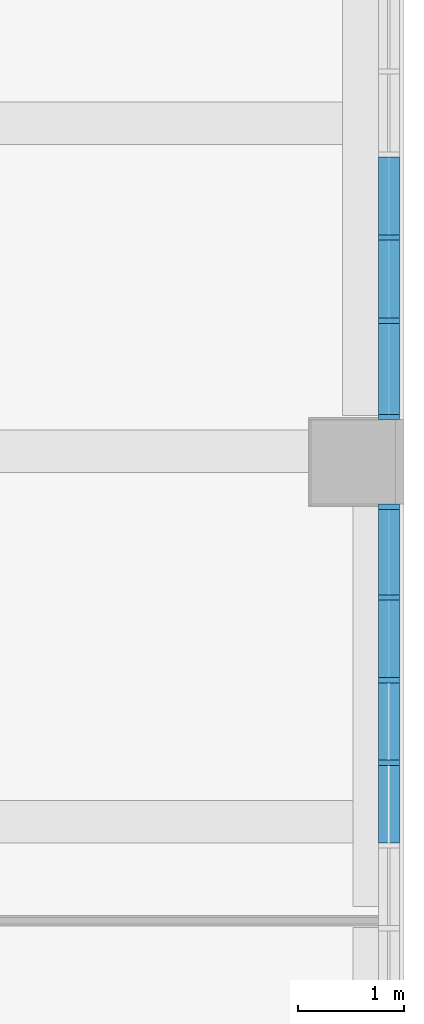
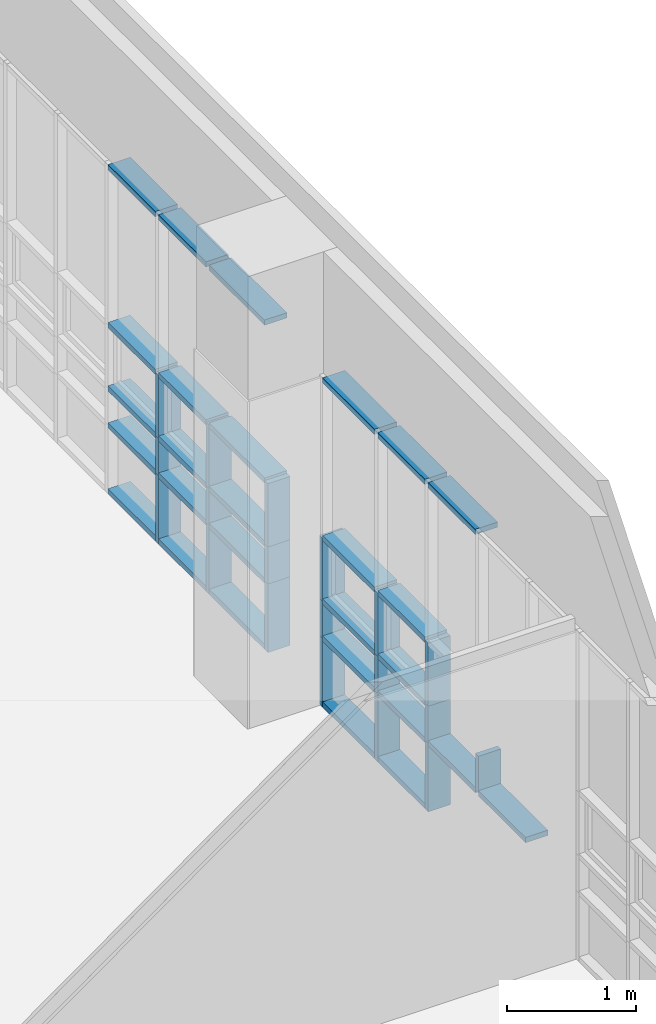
# One storey, part 26 of 74: 47 members, 2 elements without a shape of their own.
"""IFC2X3 building model written with IfcOpenShell, lengths in millimetres."""

from ifc_helpers import new_model, entity, si_unit, converted_unit, derived_unit, direction, frame, origin, origin_2d_with_axis, place, context, subcontext, project, spatial, rectangle, extrude, source, transform, mapped, material, type_object, type_shapes, element, aggregate, save


model = new_model("IFC2X3")

# Units and contexts
model_context = context("Model", 3, precision=0.01, world=origin(), true_north=direction((6.123031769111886e-17, 1.0)))
body_context = subcontext(model_context, "Body", "Model", "MODEL_VIEW")
ifc_project = project(units=[si_unit("LENGTHUNIT", "METRE", prefix="MILLI"), si_unit("AREAUNIT", "SQUARE_METRE"), si_unit("VOLUMEUNIT", "CUBIC_METRE"), converted_unit("PLANEANGLEUNIT", "DEGREE", entity("IfcRatioMeasure", 0.017453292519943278), si_unit("PLANEANGLEUNIT", "RADIAN"), dimensions=[0, 0, 0, 0, 0, 0, 0]), si_unit("MASSUNIT", "GRAM", prefix="KILO"), derived_unit("MASSDENSITYUNIT", [(si_unit("MASSUNIT", "GRAM", prefix="KILO"), 1), (si_unit("LENGTHUNIT", "METRE"), -3)]), derived_unit("MOMENTOFINERTIAUNIT", [(si_unit("LENGTHUNIT", "METRE"), 4)]), si_unit("TIMEUNIT", "SECOND"), si_unit("FREQUENCYUNIT", "HERTZ"), si_unit("THERMODYNAMICTEMPERATUREUNIT", "DEGREE_CELSIUS"), derived_unit("THERMALTRANSMITTANCEUNIT", [(si_unit("MASSUNIT", "GRAM", prefix="KILO"), 1), (si_unit("THERMODYNAMICTEMPERATUREUNIT", "KELVIN"), -1), (si_unit("TIMEUNIT", "SECOND"), -3)]), derived_unit("VOLUMETRICFLOWRATEUNIT", [(si_unit("LENGTHUNIT", "METRE"), 3), (si_unit("TIMEUNIT", "SECOND"), -1)]), derived_unit("MASSFLOWRATEUNIT", [(si_unit("MASSUNIT", "GRAM", prefix="KILO"), 1), (si_unit("TIMEUNIT", "SECOND"), -1)]), derived_unit("ROTATIONALFREQUENCYUNIT", [(si_unit("TIMEUNIT", "SECOND"), -1)]), si_unit("ELECTRICCURRENTUNIT", "AMPERE"), si_unit("ELECTRICVOLTAGEUNIT", "VOLT"), si_unit("POWERUNIT", "WATT"), si_unit("FORCEUNIT", "NEWTON", prefix="KILO"), si_unit("ILLUMINANCEUNIT", "LUX"), si_unit("LUMINOUSFLUXUNIT", "LUMEN"), si_unit("LUMINOUSINTENSITYUNIT", "CANDELA"), derived_unit("USERDEFINED", [(si_unit("MASSUNIT", "GRAM", prefix="KILO"), -1), (si_unit("LENGTHUNIT", "METRE"), -2), (si_unit("TIMEUNIT", "SECOND"), 3), (si_unit("LUMINOUSFLUXUNIT", "LUMEN"), 1)]), derived_unit("SOUNDPOWERUNIT", [(si_unit("MASSUNIT", "GRAM", prefix="KILO"), 1), (si_unit("LENGTHUNIT", "METRE"), 2), (si_unit("TIMEUNIT", "SECOND"), -3)]), derived_unit("SOUNDPRESSUREUNIT", [(si_unit("MASSUNIT", "GRAM", prefix="KILO"), 1), (si_unit("LENGTHUNIT", "METRE"), -1), (si_unit("TIMEUNIT", "SECOND"), -2)]), derived_unit("LINEARVELOCITYUNIT", [(si_unit("LENGTHUNIT", "METRE"), 1), (si_unit("TIMEUNIT", "SECOND"), -1)]), si_unit("PRESSUREUNIT", "PASCAL"), derived_unit("USERDEFINED", [(si_unit("LENGTHUNIT", "METRE"), -2), (si_unit("MASSUNIT", "GRAM", prefix="KILO"), 1), (si_unit("TIMEUNIT", "SECOND"), -2)]), derived_unit("LINEARFORCEUNIT", [(si_unit("MASSUNIT", "GRAM", prefix="KILO"), 1), (si_unit("LENGTHUNIT", "METRE"), 1), (si_unit("TIMEUNIT", "SECOND"), -2), (si_unit("LENGTHUNIT", "METRE"), -1)]), derived_unit("PLANARFORCEUNIT", [(si_unit("MASSUNIT", "GRAM", prefix="KILO"), 1), (si_unit("LENGTHUNIT", "METRE"), 1), (si_unit("TIMEUNIT", "SECOND"), -2), (si_unit("LENGTHUNIT", "METRE"), -2)])], contexts=[model_context])

# Site, building, storey
site_placement = place(None, frame((-14167.972527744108, -657.2125860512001, 0.0)))
site = spatial("IfcSite", under=ifc_project, at=site_placement, Name="Default", CompositionType="ELEMENT")
building_placement = place(site_placement, origin())
building = spatial("IfcBuilding", under=site, at=building_placement, Name="Sample Building", CompositionType="ELEMENT")
storey_placement = place(building_placement, frame((0.0, 0.0, 4800.0)))
storey = spatial("IfcBuildingStorey", under=building, at=storey_placement, Name="지상 2층", CompositionType="ELEMENT", Elevation=4800.000000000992)

# Curtain wall, members
curtain_wall_type = type_object("IfcCurtainWallType", Name="커튼월:CW112-스테인리스 스틸 커튼월", PredefinedType="NOTDEFINED")
curtain_wall_1_placement = place(storey_placement, frame((0.0, 0.0, -4800.0)))
curtain_wall_1 = element("IfcCurtainWall", 1, at=curtain_wall_1_placement, inside=storey, type_object=curtain_wall_type, Name="커튼월:CW112-스테인리스 스틸 커튼월", ObjectType="커튼월:CW112-스테인리스 스틸 커튼월")
ifc_material = material(Name="<Unnamed>")
member_type_1 = type_object("IfcMemberType", Name="직사각형 멀리언:CW200-직사각형 멀리언 50x200mm", PredefinedType="MULLION", material=ifc_material)
shared_shape_1 = source(origin(), body_context, "Body", "SweptSolid", [
    extrude(rectangle(XDim=200.0, YDim=50.0, at=origin_2d_with_axis()), frame((-25.0, 0.0, -650.0), z_axis=(0.0, 0.0, 1.0), x_axis=(0.0, -1.0, 0.0)), (0.0, 0.0, 1.0), 650.0000000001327),
])
type_shapes(member_type_1, [shared_shape_1])
member_1_placement = place(curtain_wall_1_placement, frame((51405.463828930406, 19557.212307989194, 4880.0), z_axis=(0.0, 0.0, -1.0), x_axis=(0.0, 1.0, 0.0)))
member_1 = element("IfcMember", 2, at=member_1_placement, type_object=member_type_1, material=ifc_material, Name="직사각형 멀리언:CW200-직사각형 멀리언 50x200mm", ObjectType="직사각형 멀리언:CW200-직사각형 멀리언 50x200mm", context=body_context, shape_type="MappedRepresentation", body=[
    mapped(shared_shape_1, transform((0.0, 0.0, 0.0), scale=1.0)),
])
member_type_2 = type_object("IfcMemberType", Name="직사각형 멀리언:CW200-직사각형 멀리언 50x200mm", PredefinedType="MULLION", material=ifc_material)
shared_shape_2 = source(origin(), body_context, "Body", "SweptSolid", [
    extrude(rectangle(XDim=200.0, YDim=50.0, at=origin_2d_with_axis()), frame((0.0, 0.0, -650.0), z_axis=(0.0, 0.0, 1.0), x_axis=(0.0, -1.0, 0.0)), (0.0, 0.0, 1.0), 650.0000000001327),
])
type_shapes(member_type_2, [shared_shape_2])
member_2_placement = place(curtain_wall_1_placement, frame((51405.463828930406, 17894.712275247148, 4880.0), z_axis=(0.0, 0.0, -1.0), x_axis=(0.0, 1.0, 0.0)))
member_2 = element("IfcMember", 3, at=member_2_placement, type_object=member_type_2, material=ifc_material, Name="직사각형 멀리언:CW200-직사각형 멀리언 50x200mm", ObjectType="직사각형 멀리언:CW200-직사각형 멀리언 50x200mm", context=body_context, shape_type="MappedRepresentation", body=[
    mapped(shared_shape_2, transform((0.0, 0.0, 0.0), scale=1.0)),
])
member_3_placement = place(curtain_wall_1_placement, frame((51405.463828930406, 18675.962275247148, 4880.0), z_axis=(0.0, 0.0, -1.0), x_axis=(0.0, 1.0, 0.0)))
member_3 = element("IfcMember", 4, at=member_3_placement, type_object=member_type_2, material=ifc_material, Name="직사각형 멀리언:CW200-직사각형 멀리언 50x200mm", ObjectType="직사각형 멀리언:CW200-직사각형 멀리언 50x200mm", context=body_context, shape_type="MappedRepresentation", body=[
    mapped(shared_shape_2, transform((0.0, 0.0, 0.0), scale=1.0)),
])

curtain_wall_2_placement = place(storey_placement, frame((0.0, 0.0, -4800.0)))
curtain_wall_2 = element("IfcCurtainWall", 5, at=curtain_wall_2_placement, inside=storey, type_object=curtain_wall_type, Name="커튼월:CW112-스테인리스 스틸 커튼월", ObjectType="커튼월:CW112-스테인리스 스틸 커튼월")
member_4_placement = place(curtain_wall_2_placement, frame((51405.463828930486, 21292.212275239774, 4880.0), z_axis=(0.0, 0.0, -1.0), x_axis=(0.0, 1.0, 0.0)))
member_4 = element("IfcMember", 6, at=member_4_placement, type_object=member_type_2, material=ifc_material, Name="직사각형 멀리언:CW200-직사각형 멀리언 50x200mm", ObjectType="직사각형 멀리언:CW200-직사각형 멀리언 50x200mm", context=body_context, shape_type="MappedRepresentation", body=[
    mapped(shared_shape_2, transform((0.0, 0.0, 0.0), scale=1.0)),
])
member_5_placement = place(curtain_wall_2_placement, frame((51405.463828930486, 22077.21227523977, 4880.0), z_axis=(0.0, 0.0, -1.0), x_axis=(0.0, 1.0, 0.0)))
member_5 = element("IfcMember", 7, at=member_5_placement, type_object=member_type_2, material=ifc_material, Name="직사각형 멀리언:CW200-직사각형 멀리언 50x200mm", ObjectType="직사각형 멀리언:CW200-직사각형 멀리언 50x200mm", context=body_context, shape_type="MappedRepresentation", body=[
    mapped(shared_shape_2, transform((0.0, 0.0, 0.0), scale=1.0)),
])
member_type_3 = type_object("IfcMemberType", Name="직사각형 멀리언:CW200-직사각형 멀리언 50x200mm", PredefinedType="MULLION", material=ifc_material)
shared_shape_3 = source(origin(), body_context, "Body", "SweptSolid", [
    extrude(rectangle(XDim=200.0, YDim=50.0, at=origin_2d_with_axis()), frame((-25.0, 0.0, -600.0), z_axis=(0.0, 0.0, 1.0), x_axis=(0.0, -1.0, 0.0)), (0.0, 0.0, 1.0), 600.0),
])
type_shapes(member_type_3, [shared_shape_3])
member_6_placement = place(curtain_wall_2_placement, frame((51405.463828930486, 20357.2123079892, 6480.0), z_axis=(0.0, 0.0, 1.0), x_axis=(0.0, -1.0, 0.0)))
member_6 = element("IfcMember", 8, at=member_6_placement, type_object=member_type_3, material=ifc_material, Name="직사각형 멀리언:CW200-직사각형 멀리언 50x200mm", ObjectType="직사각형 멀리언:CW200-직사각형 멀리언 50x200mm", context=body_context, shape_type="MappedRepresentation", body=[
    mapped(shared_shape_3, transform((0.0, 0.0, 0.0), scale=1.0)),
])

# Member
member_type_4 = type_object("IfcMemberType", Name="직사각형 멀리언:CW200-직사각형 멀리언 50x200mm", PredefinedType="MULLION", material=ifc_material)
shared_shape_4 = source(origin(), body_context, "Body", "SweptSolid", [
    extrude(rectangle(XDim=200.0, YDim=50.0, at=origin_2d_with_axis()), frame((-25.0, 0.0, -600.0), z_axis=(0.0, 0.0, 1.0), x_axis=(0.0, -1.0, 0.0)), (0.0, 0.0, 1.0), 600.0),
])
type_shapes(member_type_4, [shared_shape_4])
member_7_placement = place(curtain_wall_1_placement, frame((51405.463828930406, 19557.212307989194, 5880.0), z_axis=(0.0, 0.0, -1.0), x_axis=(0.0, 1.0, 0.0)))
member_7 = element("IfcMember", 9, at=member_7_placement, type_object=member_type_4, material=ifc_material, Name="직사각형 멀리언:CW200-직사각형 멀리언 50x200mm", ObjectType="직사각형 멀리언:CW200-직사각형 멀리언 50x200mm", context=body_context, shape_type="MappedRepresentation", body=[
    mapped(shared_shape_4, transform((0.0, 0.0, 0.0), scale=1.0)),
])

member_type_5 = type_object("IfcMemberType", Name="직사각형 멀리언:CW200-직사각형 멀리언 50x200mm", PredefinedType="MULLION", material=ifc_material)
shared_shape_5 = source(origin(), body_context, "Body", "SweptSolid", [
    extrude(rectangle(XDim=200.0, YDim=50.0, at=origin_2d_with_axis()), frame((-25.0, 0.0, -350.0), z_axis=(0.0, 0.0, 1.0), x_axis=(0.0, -1.0, 0.0)), (0.0, 0.0, 1.0), 349.9999999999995),
])
type_shapes(member_type_5, [shared_shape_5])
member_8_placement = place(curtain_wall_2_placement, frame((51405.463828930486, 20357.2123079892, 5880.0), z_axis=(0.0, 0.0, 1.0), x_axis=(0.0, -1.0, 0.0)))
member_8 = element("IfcMember", 10, at=member_8_placement, type_object=member_type_5, material=ifc_material, Name="직사각형 멀리언:CW200-직사각형 멀리언 50x200mm", ObjectType="직사각형 멀리언:CW200-직사각형 멀리언 50x200mm", context=body_context, shape_type="MappedRepresentation", body=[
    mapped(shared_shape_5, transform((0.0, 0.0, 0.0), scale=1.0)),
])

member_type_6 = type_object("IfcMemberType", Name="직사각형 멀리언:CW200-직사각형 멀리언 50x200mm", PredefinedType="MULLION", material=ifc_material)
shared_shape_6 = source(origin(), body_context, "Body", "SweptSolid", [
    extrude(rectangle(XDim=200.0, YDim=50.0, at=origin_2d_with_axis()), frame((0.0, 0.0, -600.0), z_axis=(0.0, 0.0, 1.0), x_axis=(0.0, -1.0, 0.0)), (0.0, 0.0, 1.0), 600.0),
])
type_shapes(member_type_6, [shared_shape_6])
member_9_placement = place(curtain_wall_1_placement, frame((51405.463828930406, 17894.712275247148, 5880.0), z_axis=(0.0, 0.0, -1.0), x_axis=(0.0, 1.0, 0.0)))
member_9 = element("IfcMember", 11, at=member_9_placement, type_object=member_type_6, material=ifc_material, Name="직사각형 멀리언:CW200-직사각형 멀리언 50x200mm", ObjectType="직사각형 멀리언:CW200-직사각형 멀리언 50x200mm", context=body_context, shape_type="MappedRepresentation", body=[
    mapped(shared_shape_6, transform((0.0, 0.0, 0.0), scale=1.0)),
])

member_10_placement = place(curtain_wall_1_placement, frame((51405.463828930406, 18675.962275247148, 5880.0), z_axis=(0.0, 0.0, -1.0), x_axis=(0.0, 1.0, 0.0)))
member_10 = element("IfcMember", 12, at=member_10_placement, type_object=member_type_6, material=ifc_material, Name="직사각형 멀리언:CW200-직사각형 멀리언 50x200mm", ObjectType="직사각형 멀리언:CW200-직사각형 멀리언 50x200mm", context=body_context, shape_type="MappedRepresentation", body=[
    mapped(shared_shape_6, transform((0.0, 0.0, 0.0), scale=1.0)),
])

member_11_placement = place(curtain_wall_2_placement, frame((51405.463828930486, 21292.212275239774, 5880.0), z_axis=(0.0, 0.0, -1.0), x_axis=(0.0, 1.0, 0.0)))
member_11 = element("IfcMember", 13, at=member_11_placement, type_object=member_type_6, material=ifc_material, Name="직사각형 멀리언:CW200-직사각형 멀리언 50x200mm", ObjectType="직사각형 멀리언:CW200-직사각형 멀리언 50x200mm", context=body_context, shape_type="MappedRepresentation", body=[
    mapped(shared_shape_6, transform((0.0, 0.0, 0.0), scale=1.0)),
])

member_12_placement = place(curtain_wall_2_placement, frame((51405.463828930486, 22077.21227523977, 5880.0), z_axis=(0.0, 0.0, -1.0), x_axis=(0.0, 1.0, 0.0)))
member_12 = element("IfcMember", 14, at=member_12_placement, type_object=member_type_6, material=ifc_material, Name="직사각형 멀리언:CW200-직사각형 멀리언 50x200mm", ObjectType="직사각형 멀리언:CW200-직사각형 멀리언 50x200mm", context=body_context, shape_type="MappedRepresentation", body=[
    mapped(shared_shape_6, transform((0.0, 0.0, 0.0), scale=1.0)),
])

member_type_7 = type_object("IfcMemberType", Name="직사각형 멀리언:CW200-직사각형 멀리언 50x200mm", PredefinedType="MULLION", material=ifc_material)
shared_shape_7 = source(origin(), body_context, "Body", "SweptSolid", [
    extrude(rectangle(XDim=200.0, YDim=50.0, at=origin_2d_with_axis()), frame((-25.0, 0.0, -350.0), z_axis=(0.0, 0.0, 1.0), x_axis=(0.0, -1.0, 0.0)), (0.0, 0.0, 1.0), 349.9999999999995),
])
type_shapes(member_type_7, [shared_shape_7])
member_13_placement = place(curtain_wall_1_placement, frame((51405.463828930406, 19557.212307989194, 5530.0), z_axis=(0.0, 0.0, -1.0), x_axis=(0.0, 1.0, 0.0)))
member_13 = element("IfcMember", 15, at=member_13_placement, type_object=member_type_7, material=ifc_material, Name="직사각형 멀리언:CW200-직사각형 멀리언 50x200mm", ObjectType="직사각형 멀리언:CW200-직사각형 멀리언 50x200mm", context=body_context, shape_type="MappedRepresentation", body=[
    mapped(shared_shape_7, transform((0.0, 0.0, 0.0), scale=1.0)),
])

member_type_8 = type_object("IfcMemberType", Name="직사각형 멀리언:CW200-직사각형 멀리언 50x200mm", PredefinedType="MULLION", material=ifc_material)
shared_shape_8 = source(origin(), body_context, "Body", "SweptSolid", [
    extrude(rectangle(XDim=200.0, YDim=50.0, at=origin_2d_with_axis()), frame((-25.0, 0.0, -650.0), z_axis=(0.0, 0.0, 1.0), x_axis=(0.0, -1.0, 0.0)), (0.0, 0.0, 1.0), 650.0000000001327),
])
type_shapes(member_type_8, [shared_shape_8])
member_14_placement = place(curtain_wall_2_placement, frame((51405.463828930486, 20357.2123079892, 5530.0), z_axis=(0.0, 0.0, 1.0), x_axis=(0.0, -1.0, 0.0)))
member_14 = element("IfcMember", 16, at=member_14_placement, type_object=member_type_8, material=ifc_material, Name="직사각형 멀리언:CW200-직사각형 멀리언 50x200mm", ObjectType="직사각형 멀리언:CW200-직사각형 멀리언 50x200mm", context=body_context, shape_type="MappedRepresentation", body=[
    mapped(shared_shape_8, transform((0.0, 0.0, 0.0), scale=1.0)),
])

member_type_9 = type_object("IfcMemberType", Name="직사각형 멀리언:CW200-직사각형 멀리언 50x200mm", PredefinedType="MULLION", material=ifc_material)
shared_shape_9 = source(origin(), body_context, "Body", "SweptSolid", [
    extrude(rectangle(XDim=200.0, YDim=50.0, at=origin_2d_with_axis()), frame((0.0, 0.0, -350.0), z_axis=(0.0, 0.0, 1.0), x_axis=(0.0, -1.0, 0.0)), (0.0, 0.0, 1.0), 349.9999999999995),
])
type_shapes(member_type_9, [shared_shape_9])
member_15_placement = place(curtain_wall_1_placement, frame((51405.4638289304, 17113.462275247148, 5530.0), z_axis=(0.0, 0.0, -1.0), x_axis=(0.0, 1.0, 0.0)))
member_15 = element("IfcMember", 17, at=member_15_placement, type_object=member_type_9, material=ifc_material, Name="직사각형 멀리언:CW200-직사각형 멀리언 50x200mm", ObjectType="직사각형 멀리언:CW200-직사각형 멀리언 50x200mm", context=body_context, shape_type="MappedRepresentation", body=[
    mapped(shared_shape_9, transform((0.0, 0.0, 0.0), scale=1.0)),
])

member_16_placement = place(curtain_wall_1_placement, frame((51405.463828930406, 17894.712275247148, 5530.0), z_axis=(0.0, 0.0, -1.0), x_axis=(0.0, 1.0, 0.0)))
member_16 = element("IfcMember", 18, at=member_16_placement, type_object=member_type_9, material=ifc_material, Name="직사각형 멀리언:CW200-직사각형 멀리언 50x200mm", ObjectType="직사각형 멀리언:CW200-직사각형 멀리언 50x200mm", context=body_context, shape_type="MappedRepresentation", body=[
    mapped(shared_shape_9, transform((0.0, 0.0, 0.0), scale=1.0)),
])

member_17_placement = place(curtain_wall_1_placement, frame((51405.463828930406, 18675.962275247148, 5530.0), z_axis=(0.0, 0.0, -1.0), x_axis=(0.0, 1.0, 0.0)))
member_17 = element("IfcMember", 19, at=member_17_placement, type_object=member_type_9, material=ifc_material, Name="직사각형 멀리언:CW200-직사각형 멀리언 50x200mm", ObjectType="직사각형 멀리언:CW200-직사각형 멀리언 50x200mm", context=body_context, shape_type="MappedRepresentation", body=[
    mapped(shared_shape_9, transform((0.0, 0.0, 0.0), scale=1.0)),
])

member_18_placement = place(curtain_wall_2_placement, frame((51405.463828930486, 21292.212275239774, 5530.0), z_axis=(0.0, 0.0, -1.0), x_axis=(0.0, 1.0, 0.0)))
member_18 = element("IfcMember", 20, at=member_18_placement, type_object=member_type_9, material=ifc_material, Name="직사각형 멀리언:CW200-직사각형 멀리언 50x200mm", ObjectType="직사각형 멀리언:CW200-직사각형 멀리언 50x200mm", context=body_context, shape_type="MappedRepresentation", body=[
    mapped(shared_shape_9, transform((0.0, 0.0, 0.0), scale=1.0)),
])

member_19_placement = place(curtain_wall_2_placement, frame((51405.463828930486, 22077.21227523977, 5530.0), z_axis=(0.0, 0.0, -1.0), x_axis=(0.0, 1.0, 0.0)))
member_19 = element("IfcMember", 21, at=member_19_placement, type_object=member_type_9, material=ifc_material, Name="직사각형 멀리언:CW200-직사각형 멀리언 50x200mm", ObjectType="직사각형 멀리언:CW200-직사각형 멀리언 50x200mm", context=body_context, shape_type="MappedRepresentation", body=[
    mapped(shared_shape_9, transform((0.0, 0.0, 0.0), scale=1.0)),
])

member_type_10 = type_object("IfcMemberType", Name="직사각형 멀리언:CW200-직사각형 멀리언 50x200mm", PredefinedType="MULLION", material=ifc_material)
shared_shape_10 = source(origin(), body_context, "Body", "SweptSolid", [
    extrude(rectangle(XDim=200.0, YDim=50.0, at=origin_2d_with_axis()), frame((-25.0, 0.0, -806.2500327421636), z_axis=(0.0, 0.0, 1.0), x_axis=(0.0, -1.0, 0.0)), (0.0, 0.0, 1.0), 806.2500327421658),
])
type_shapes(member_type_10, [shared_shape_10])
member_20_placement = place(curtain_wall_1_placement, frame((51405.463828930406, 18700.962275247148, 4880.0), z_axis=(0.0, -1.0, 0.0), x_axis=(0.0, 0.0, -1.0)))
member_20 = element("IfcMember", 22, at=member_20_placement, type_object=member_type_10, material=ifc_material, Name="직사각형 멀리언:CW200-직사각형 멀리언 50x200mm", ObjectType="직사각형 멀리언:CW200-직사각형 멀리언 50x200mm", context=body_context, shape_type="MappedRepresentation", body=[
    mapped(shared_shape_10, transform((0.0, 0.0, 0.0), scale=1.0)),
])

member_type_11 = type_object("IfcMemberType", Name="직사각형 멀리언:CW200-직사각형 멀리언 50x200mm", PredefinedType="MULLION", material=ifc_material)
shared_shape_11 = source(origin(), body_context, "Body", "SweptSolid", [
    extrude(rectangle(XDim=200.0, YDim=50.0, at=origin_2d_with_axis()), frame((-25.0, 0.0, -806.2500327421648), z_axis=(0.0, 0.0, 1.0), x_axis=(0.0, -1.0, 0.0)), (0.0, 0.0, 1.0), 806.2500327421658),
])
type_shapes(member_type_11, [shared_shape_11])
member_21_placement = place(curtain_wall_1_placement, frame((51405.463828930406, 19507.21230798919, 8000.0), z_axis=(0.0, 1.0, 0.0), x_axis=(0.0, 0.0, 1.0)))
member_21 = element("IfcMember", 23, at=member_21_placement, type_object=member_type_11, material=ifc_material, Name="직사각형 멀리언:CW200-직사각형 멀리언 50x200mm", ObjectType="직사각형 멀리언:CW200-직사각형 멀리언 50x200mm", context=body_context, shape_type="MappedRepresentation", body=[
    mapped(shared_shape_11, transform((0.0, 0.0, 0.0), scale=1.0)),
])

member_type_12 = type_object("IfcMemberType", Name="직사각형 멀리언:CW200-직사각형 멀리언 50x200mm", PredefinedType="MULLION", material=ifc_material)
shared_shape_12 = source(origin(), body_context, "Body", "SweptSolid", [
    extrude(rectangle(XDim=200.0, YDim=50.0, at=origin_2d_with_axis()), frame((-25.0, 0.0, -731.2499999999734), z_axis=(0.0, 0.0, 1.0), x_axis=(0.0, -1.0, 0.0)), (0.0, 0.0, 1.0), 731.2499999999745),
])
type_shapes(member_type_12, [shared_shape_12])
member_22_placement = place(curtain_wall_1_placement, frame((51405.463828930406, 17919.712275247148, 4880.0), z_axis=(0.0, -1.0, 0.0), x_axis=(0.0, 0.0, -1.0)))
member_22 = element("IfcMember", 24, at=member_22_placement, type_object=member_type_12, material=ifc_material, Name="직사각형 멀리언:CW200-직사각형 멀리언 50x200mm", ObjectType="직사각형 멀리언:CW200-직사각형 멀리언 50x200mm", context=body_context, shape_type="MappedRepresentation", body=[
    mapped(shared_shape_12, transform((0.0, 0.0, 0.0), scale=1.0)),
])

member_type_13 = type_object("IfcMemberType", Name="직사각형 멀리언:CW200-직사각형 멀리언 50x200mm", PredefinedType="MULLION", material=ifc_material)
shared_shape_13 = source(origin(), body_context, "Body", "SweptSolid", [
    extrude(rectangle(XDim=200.0, YDim=50.0, at=origin_2d_with_axis()), frame((-25.0, 0.0, -731.2499999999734), z_axis=(0.0, 0.0, 1.0), x_axis=(0.0, -1.0, 0.0)), (0.0, 0.0, 1.0), 731.2499999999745),
])
type_shapes(member_type_13, [shared_shape_13])
member_23_placement = place(curtain_wall_1_placement, frame((51405.463828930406, 17869.712275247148, 8000.0), z_axis=(0.0, 1.0, 0.0), x_axis=(0.0, 0.0, 1.0)))
member_23 = element("IfcMember", 25, at=member_23_placement, type_object=member_type_13, material=ifc_material, Name="직사각형 멀리언:CW200-직사각형 멀리언 50x200mm", ObjectType="직사각형 멀리언:CW200-직사각형 멀리언 50x200mm", context=body_context, shape_type="MappedRepresentation", body=[
    mapped(shared_shape_13, transform((0.0, 0.0, 0.0), scale=1.0)),
])

member_24_placement = place(curtain_wall_1_placement, frame((51405.463828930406, 18650.962275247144, 8000.0), z_axis=(0.0, 1.0, 0.0), x_axis=(0.0, 0.0, 1.0)))
member_24 = element("IfcMember", 26, at=member_24_placement, type_object=member_type_13, material=ifc_material, Name="직사각형 멀리언:CW200-직사각형 멀리언 50x200mm", ObjectType="직사각형 멀리언:CW200-직사각형 멀리언 50x200mm", context=body_context, shape_type="MappedRepresentation", body=[
    mapped(shared_shape_13, transform((0.0, 0.0, 0.0), scale=1.0)),
])

member_type_14 = type_object("IfcMemberType", Name="직사각형 멀리언:CW200-직사각형 멀리언 50x200mm", PredefinedType="MULLION", material=ifc_material)
shared_shape_14 = source(origin(), body_context, "Body", "SweptSolid", [
    extrude(rectangle(XDim=200.0, YDim=50.0, at=origin_2d_with_axis()), frame((0.0, 0.0, -806.2500327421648), z_axis=(0.0, 0.0, 1.0), x_axis=(0.0, -1.0, 0.0)), (0.0, 0.0, 1.0), 806.2500327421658),
])
type_shapes(member_type_14, [shared_shape_14])
member_25_placement = place(curtain_wall_1_placement, frame((51405.463828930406, 19507.21230798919, 5880.0), z_axis=(0.0, 1.0, 0.0), x_axis=(0.0, 0.0, 1.0)))
member_25 = element("IfcMember", 27, at=member_25_placement, type_object=member_type_14, material=ifc_material, Name="직사각형 멀리언:CW200-직사각형 멀리언 50x200mm", ObjectType="직사각형 멀리언:CW200-직사각형 멀리언 50x200mm", context=body_context, shape_type="MappedRepresentation", body=[
    mapped(shared_shape_14, transform((0.0, 0.0, 0.0), scale=1.0)),
])

member_26_placement = place(curtain_wall_1_placement, frame((51405.463828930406, 19507.21230798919, 6480.0), z_axis=(0.0, 1.0, 0.0), x_axis=(0.0, 0.0, 1.0)))
member_26 = element("IfcMember", 28, at=member_26_placement, type_object=member_type_14, material=ifc_material, Name="직사각형 멀리언:CW200-직사각형 멀리언 50x200mm", ObjectType="직사각형 멀리언:CW200-직사각형 멀리언 50x200mm", context=body_context, shape_type="MappedRepresentation", body=[
    mapped(shared_shape_14, transform((0.0, 0.0, 0.0), scale=1.0)),
])

member_27_placement = place(curtain_wall_1_placement, frame((51405.463828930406, 19507.21230798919, 5530.0), z_axis=(0.0, 1.0, 0.0), x_axis=(0.0, 0.0, 1.0)))
member_27 = element("IfcMember", 29, at=member_27_placement, type_object=member_type_14, material=ifc_material, Name="직사각형 멀리언:CW200-직사각형 멀리언 50x200mm", ObjectType="직사각형 멀리언:CW200-직사각형 멀리언 50x200mm", context=body_context, shape_type="MappedRepresentation", body=[
    mapped(shared_shape_14, transform((0.0, 0.0, 0.0), scale=1.0)),
])

member_type_15 = type_object("IfcMemberType", Name="직사각형 멀리언:CW200-직사각형 멀리언 50x200mm", PredefinedType="MULLION", material=ifc_material)
shared_shape_15 = source(origin(), body_context, "Body", "SweptSolid", [
    extrude(rectangle(XDim=200.0, YDim=50.0, at=origin_2d_with_axis()), frame((0.0, 0.0, -731.2499999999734), z_axis=(0.0, 0.0, 1.0), x_axis=(0.0, -1.0, 0.0)), (0.0, 0.0, 1.0), 731.2499999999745),
])
type_shapes(member_type_15, [shared_shape_15])
member_28_placement = place(curtain_wall_1_placement, frame((51405.463828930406, 18650.962275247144, 5880.0), z_axis=(0.0, 1.0, 0.0), x_axis=(0.0, 0.0, 1.0)))
member_28 = element("IfcMember", 30, at=member_28_placement, type_object=member_type_15, material=ifc_material, Name="직사각형 멀리언:CW200-직사각형 멀리언 50x200mm", ObjectType="직사각형 멀리언:CW200-직사각형 멀리언 50x200mm", context=body_context, shape_type="MappedRepresentation", body=[
    mapped(shared_shape_15, transform((0.0, 0.0, 0.0), scale=1.0)),
])

member_29_placement = place(curtain_wall_1_placement, frame((51405.463828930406, 18650.962275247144, 6480.0), z_axis=(0.0, 1.0, 0.0), x_axis=(0.0, 0.0, 1.0)))
member_29 = element("IfcMember", 31, at=member_29_placement, type_object=member_type_15, material=ifc_material, Name="직사각형 멀리언:CW200-직사각형 멀리언 50x200mm", ObjectType="직사각형 멀리언:CW200-직사각형 멀리언 50x200mm", context=body_context, shape_type="MappedRepresentation", body=[
    mapped(shared_shape_15, transform((0.0, 0.0, 0.0), scale=1.0)),
])

member_30_placement = place(curtain_wall_1_placement, frame((51405.4638289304, 17088.462275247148, 5530.0), z_axis=(0.0, 1.0, 0.0), x_axis=(0.0, 0.0, 1.0)))
member_30 = element("IfcMember", 32, at=member_30_placement, type_object=member_type_15, material=ifc_material, Name="직사각형 멀리언:CW200-직사각형 멀리언 50x200mm", ObjectType="직사각형 멀리언:CW200-직사각형 멀리언 50x200mm", context=body_context, shape_type="MappedRepresentation", body=[
    mapped(shared_shape_15, transform((0.0, 0.0, 0.0), scale=1.0)),
])

member_31_placement = place(curtain_wall_1_placement, frame((51405.463828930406, 17869.712275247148, 5530.0), z_axis=(0.0, 1.0, 0.0), x_axis=(0.0, 0.0, 1.0)))
member_31 = element("IfcMember", 33, at=member_31_placement, type_object=member_type_15, material=ifc_material, Name="직사각형 멀리언:CW200-직사각형 멀리언 50x200mm", ObjectType="직사각형 멀리언:CW200-직사각형 멀리언 50x200mm", context=body_context, shape_type="MappedRepresentation", body=[
    mapped(shared_shape_15, transform((0.0, 0.0, 0.0), scale=1.0)),
])

member_32_placement = place(curtain_wall_1_placement, frame((51405.463828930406, 18650.962275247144, 5530.0), z_axis=(0.0, 1.0, 0.0), x_axis=(0.0, 0.0, 1.0)))
member_32 = element("IfcMember", 34, at=member_32_placement, type_object=member_type_15, material=ifc_material, Name="직사각형 멀리언:CW200-직사각형 멀리언 50x200mm", ObjectType="직사각형 멀리언:CW200-직사각형 멀리언 50x200mm", context=body_context, shape_type="MappedRepresentation", body=[
    mapped(shared_shape_15, transform((0.0, 0.0, 0.0), scale=1.0)),
])

aggregate(curtain_wall_1, [member_21, member_1, member_7, member_23, member_22, member_28, member_29, member_2, member_9, member_24, member_20, member_25, member_26, member_3, member_10, member_13, member_30, member_31, member_32, member_27, member_15, member_16, member_17])

member_type_16 = type_object("IfcMemberType", Name="직사각형 멀리언:CW200-직사각형 멀리언 50x200mm", PredefinedType="MULLION", material=ifc_material)
shared_shape_16 = source(origin(), body_context, "Body", "SweptSolid", [
    extrude(rectangle(XDim=200.0, YDim=50.0, at=origin_2d_with_axis()), frame((-25.0, 0.0, -859.9999672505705), z_axis=(0.0, 0.0, 1.0), x_axis=(0.0, -1.0, 0.0)), (0.0, 0.0, 1.0), 859.9999672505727),
])
type_shapes(member_type_16, [shared_shape_16])
member_33_placement = place(curtain_wall_2_placement, frame((51405.463828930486, 20407.2123079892, 4880.0), z_axis=(0.0, -1.0, 0.0), x_axis=(0.0, 0.0, -1.0)))
member_33 = element("IfcMember", 35, at=member_33_placement, type_object=member_type_16, material=ifc_material, Name="직사각형 멀리언:CW200-직사각형 멀리언 50x200mm", ObjectType="직사각형 멀리언:CW200-직사각형 멀리언 50x200mm", context=body_context, shape_type="MappedRepresentation", body=[
    mapped(shared_shape_16, transform((0.0, 0.0, 0.0), scale=1.0)),
])

member_type_17 = type_object("IfcMemberType", Name="직사각형 멀리언:CW200-직사각형 멀리언 50x200mm", PredefinedType="MULLION", material=ifc_material)
shared_shape_17 = source(origin(), body_context, "Body", "SweptSolid", [
    extrude(rectangle(XDim=200.0, YDim=50.0, at=origin_2d_with_axis()), frame((-25.0, 0.0, -859.9999672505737), z_axis=(0.0, 0.0, 1.0), x_axis=(0.0, -1.0, 0.0)), (0.0, 0.0, 1.0), 859.9999672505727),
])
type_shapes(member_type_17, [shared_shape_17])
member_34_placement = place(curtain_wall_2_placement, frame((51405.463828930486, 21267.212275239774, 8000.0), z_axis=(0.0, 1.0, 0.0), x_axis=(0.0, 0.0, 1.0)))
member_34 = element("IfcMember", 36, at=member_34_placement, type_object=member_type_17, material=ifc_material, Name="직사각형 멀리언:CW200-직사각형 멀리언 50x200mm", ObjectType="직사각형 멀리언:CW200-직사각형 멀리언 50x200mm", context=body_context, shape_type="MappedRepresentation", body=[
    mapped(shared_shape_17, transform((0.0, 0.0, 0.0), scale=1.0)),
])

member_type_18 = type_object("IfcMemberType", Name="직사각형 멀리언:CW200-직사각형 멀리언 50x200mm", PredefinedType="MULLION", material=ifc_material)
shared_shape_18 = source(origin(), body_context, "Body", "SweptSolid", [
    extrude(rectangle(XDim=200.0, YDim=50.0, at=origin_2d_with_axis()), frame((-25.0, 0.0, -735.0), z_axis=(0.0, 0.0, 1.0), x_axis=(0.0, -1.0, 0.0)), (0.0, 0.0, 1.0), 734.9999999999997),
])
type_shapes(member_type_18, [shared_shape_18])
member_35_placement = place(curtain_wall_2_placement, frame((51405.463828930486, 21317.21227523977, 4880.0), z_axis=(0.0, -1.0, 0.0), x_axis=(0.0, 0.0, -1.0)))
member_35 = element("IfcMember", 37, at=member_35_placement, type_object=member_type_18, material=ifc_material, Name="직사각형 멀리언:CW200-직사각형 멀리언 50x200mm", ObjectType="직사각형 멀리언:CW200-직사각형 멀리언 50x200mm", context=body_context, shape_type="MappedRepresentation", body=[
    mapped(shared_shape_18, transform((0.0, 0.0, 0.0), scale=1.0)),
])

member_36_placement = place(curtain_wall_2_placement, frame((51405.463828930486, 22102.21227523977, 4880.0), z_axis=(0.0, -1.0, 0.0), x_axis=(0.0, 0.0, -1.0)))
member_36 = element("IfcMember", 38, at=member_36_placement, type_object=member_type_18, material=ifc_material, Name="직사각형 멀리언:CW200-직사각형 멀리언 50x200mm", ObjectType="직사각형 멀리언:CW200-직사각형 멀리언 50x200mm", context=body_context, shape_type="MappedRepresentation", body=[
    mapped(shared_shape_18, transform((0.0, 0.0, 0.0), scale=1.0)),
])

member_type_19 = type_object("IfcMemberType", Name="직사각형 멀리언:CW200-직사각형 멀리언 50x200mm", PredefinedType="MULLION", material=ifc_material)
shared_shape_19 = source(origin(), body_context, "Body", "SweptSolid", [
    extrude(rectangle(XDim=200.0, YDim=50.0, at=origin_2d_with_axis()), frame((0.0, 0.0, -859.9999672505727), z_axis=(0.0, 0.0, 1.0), x_axis=(0.0, -1.0, 0.0)), (0.0, 0.0, 1.0), 859.9999672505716),
])
type_shapes(member_type_19, [shared_shape_19])
member_37_placement = place(curtain_wall_2_placement, frame((51405.463828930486, 21267.212275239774, 6480.0), z_axis=(0.0, 1.0, 0.0), x_axis=(0.0, 0.0, 1.0)))
member_37 = element("IfcMember", 39, at=member_37_placement, type_object=member_type_19, material=ifc_material, Name="직사각형 멀리언:CW200-직사각형 멀리언 50x200mm", ObjectType="직사각형 멀리언:CW200-직사각형 멀리언 50x200mm", context=body_context, shape_type="MappedRepresentation", body=[
    mapped(shared_shape_19, transform((0.0, 0.0, 0.0), scale=1.0)),
])

member_38_placement = place(curtain_wall_2_placement, frame((51405.463828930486, 21267.212275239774, 5880.0), z_axis=(0.0, 1.0, 0.0), x_axis=(0.0, 0.0, 1.0)))
member_38 = element("IfcMember", 40, at=member_38_placement, type_object=member_type_19, material=ifc_material, Name="직사각형 멀리언:CW200-직사각형 멀리언 50x200mm", ObjectType="직사각형 멀리언:CW200-직사각형 멀리언 50x200mm", context=body_context, shape_type="MappedRepresentation", body=[
    mapped(shared_shape_19, transform((0.0, 0.0, 0.0), scale=1.0)),
])

member_39_placement = place(curtain_wall_2_placement, frame((51405.463828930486, 21267.212275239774, 5530.0), z_axis=(0.0, 1.0, 0.0), x_axis=(0.0, 0.0, 1.0)))
member_39 = element("IfcMember", 41, at=member_39_placement, type_object=member_type_19, material=ifc_material, Name="직사각형 멀리언:CW200-직사각형 멀리언 50x200mm", ObjectType="직사각형 멀리언:CW200-직사각형 멀리언 50x200mm", context=body_context, shape_type="MappedRepresentation", body=[
    mapped(shared_shape_19, transform((0.0, 0.0, 0.0), scale=1.0)),
])

member_type_20 = type_object("IfcMemberType", Name="직사각형 멀리언:CW200-직사각형 멀리언 50x200mm", PredefinedType="MULLION", material=ifc_material)
shared_shape_20 = source(origin(), body_context, "Body", "SweptSolid", [
    extrude(rectangle(XDim=200.0, YDim=50.0, at=origin_2d_with_axis()), frame((0.0, 0.0, -735.0), z_axis=(0.0, 0.0, 1.0), x_axis=(0.0, -1.0, 0.0)), (0.0, 0.0, 1.0), 734.9999999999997),
])
type_shapes(member_type_20, [shared_shape_20])
member_40_placement = place(curtain_wall_2_placement, frame((51405.463828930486, 22052.212275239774, 6480.0), z_axis=(0.0, 1.0, 0.0), x_axis=(0.0, 0.0, 1.0)))
member_40 = element("IfcMember", 42, at=member_40_placement, type_object=member_type_20, material=ifc_material, Name="직사각형 멀리언:CW200-직사각형 멀리언 50x200mm", ObjectType="직사각형 멀리언:CW200-직사각형 멀리언 50x200mm", context=body_context, shape_type="MappedRepresentation", body=[
    mapped(shared_shape_20, transform((0.0, 0.0, 0.0), scale=1.0)),
])

member_41_placement = place(curtain_wall_2_placement, frame((51405.463828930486, 22837.212275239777, 6480.0), z_axis=(0.0, 1.0, 0.0), x_axis=(0.0, 0.0, 1.0)))
member_41 = element("IfcMember", 43, at=member_41_placement, type_object=member_type_20, material=ifc_material, Name="직사각형 멀리언:CW200-직사각형 멀리언 50x200mm", ObjectType="직사각형 멀리언:CW200-직사각형 멀리언 50x200mm", context=body_context, shape_type="MappedRepresentation", body=[
    mapped(shared_shape_20, transform((0.0, 0.0, 0.0), scale=1.0)),
])

member_42_placement = place(curtain_wall_2_placement, frame((51405.463828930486, 22052.212275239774, 5880.0), z_axis=(0.0, 1.0, 0.0), x_axis=(0.0, 0.0, 1.0)))
member_42 = element("IfcMember", 44, at=member_42_placement, type_object=member_type_20, material=ifc_material, Name="직사각형 멀리언:CW200-직사각형 멀리언 50x200mm", ObjectType="직사각형 멀리언:CW200-직사각형 멀리언 50x200mm", context=body_context, shape_type="MappedRepresentation", body=[
    mapped(shared_shape_20, transform((0.0, 0.0, 0.0), scale=1.0)),
])

member_43_placement = place(curtain_wall_2_placement, frame((51405.463828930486, 22837.212275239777, 5880.0), z_axis=(0.0, 1.0, 0.0), x_axis=(0.0, 0.0, 1.0)))
member_43 = element("IfcMember", 45, at=member_43_placement, type_object=member_type_20, material=ifc_material, Name="직사각형 멀리언:CW200-직사각형 멀리언 50x200mm", ObjectType="직사각형 멀리언:CW200-직사각형 멀리언 50x200mm", context=body_context, shape_type="MappedRepresentation", body=[
    mapped(shared_shape_20, transform((0.0, 0.0, 0.0), scale=1.0)),
])

member_44_placement = place(curtain_wall_2_placement, frame((51405.463828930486, 22052.212275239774, 5530.0), z_axis=(0.0, 1.0, 0.0), x_axis=(0.0, 0.0, 1.0)))
member_44 = element("IfcMember", 46, at=member_44_placement, type_object=member_type_20, material=ifc_material, Name="직사각형 멀리언:CW200-직사각형 멀리언 50x200mm", ObjectType="직사각형 멀리언:CW200-직사각형 멀리언 50x200mm", context=body_context, shape_type="MappedRepresentation", body=[
    mapped(shared_shape_20, transform((0.0, 0.0, 0.0), scale=1.0)),
])

member_45_placement = place(curtain_wall_2_placement, frame((51405.463828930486, 22837.212275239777, 5530.0), z_axis=(0.0, 1.0, 0.0), x_axis=(0.0, 0.0, 1.0)))
member_45 = element("IfcMember", 47, at=member_45_placement, type_object=member_type_20, material=ifc_material, Name="직사각형 멀리언:CW200-직사각형 멀리언 50x200mm", ObjectType="직사각형 멀리언:CW200-직사각형 멀리언 50x200mm", context=body_context, shape_type="MappedRepresentation", body=[
    mapped(shared_shape_20, transform((0.0, 0.0, 0.0), scale=1.0)),
])

member_type_21 = type_object("IfcMemberType", Name="직사각형 멀리언:CW200-직사각형 멀리언 50x200mm", PredefinedType="MULLION", material=ifc_material)
shared_shape_21 = source(origin(), body_context, "Body", "SweptSolid", [
    extrude(rectangle(XDim=200.0, YDim=50.0, at=origin_2d_with_axis()), frame((-25.0, 0.0, -735.0), z_axis=(0.0, 0.0, 1.0), x_axis=(0.0, -1.0, 0.0)), (0.0, 0.0, 1.0), 734.9999999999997),
])
type_shapes(member_type_21, [shared_shape_21])
member_46_placement = place(curtain_wall_2_placement, frame((51405.463828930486, 22052.212275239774, 8000.0), z_axis=(0.0, 1.0, 0.0), x_axis=(0.0, 0.0, 1.0)))
member_46 = element("IfcMember", 48, at=member_46_placement, type_object=member_type_21, material=ifc_material, Name="직사각형 멀리언:CW200-직사각형 멀리언 50x200mm", ObjectType="직사각형 멀리언:CW200-직사각형 멀리언 50x200mm", context=body_context, shape_type="MappedRepresentation", body=[
    mapped(shared_shape_21, transform((0.0, 0.0, 0.0), scale=1.0)),
])

member_47_placement = place(curtain_wall_2_placement, frame((51405.463828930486, 22837.212275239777, 8000.0), z_axis=(0.0, 1.0, 0.0), x_axis=(0.0, 0.0, 1.0)))
member_47 = element("IfcMember", 49, at=member_47_placement, type_object=member_type_21, material=ifc_material, Name="직사각형 멀리언:CW200-직사각형 멀리언 50x200mm", ObjectType="직사각형 멀리언:CW200-직사각형 멀리언 50x200mm", context=body_context, shape_type="MappedRepresentation", body=[
    mapped(shared_shape_21, transform((0.0, 0.0, 0.0), scale=1.0)),
])

aggregate(curtain_wall_2, [member_33, member_34, member_35, member_4, member_6, member_37, member_40, member_46, member_36, member_41, member_5, member_47, member_8, member_38, member_42, member_43, member_11, member_12, member_14, member_39, member_44, member_45, member_18, member_19])

save(model, "model.ifc")
